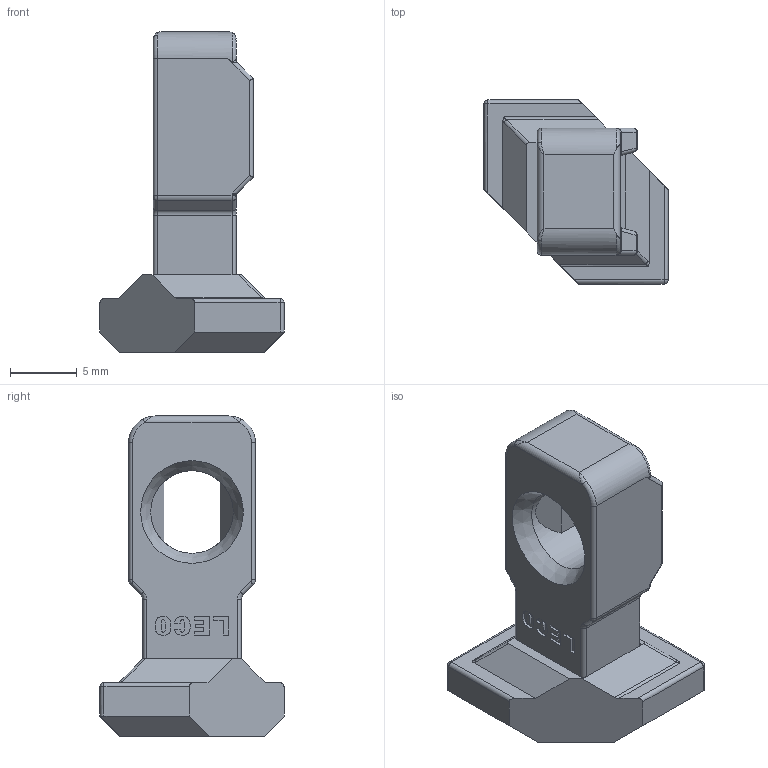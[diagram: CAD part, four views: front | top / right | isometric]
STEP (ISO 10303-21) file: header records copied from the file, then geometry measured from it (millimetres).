
FILE_DESCRIPTION(('STEP AP214'),'1');
FILE_NAME('TX25.stp','2016-11-17T10:22:35',(' '),(' '),'Spatial InterOp 3D',' ',' ');
FILE_SCHEMA(('automotive_design'));
Length unit declared in the file: millimetre
Products named in the file (1): TX25
Bounding box: 13.8 x 13.8 x 24 mm (x, y, z)
Volume: 1539.9 mm3; surface area: 1111 mm2
Topology: 1 solids, 1 shells, 314 faces, 858 edges, 539 vertices
Faces by surface type: plane 218, cylinder 55, bspline 24, torus 10, sphere 6, cone 1
Full cylindrical faces by diameter (mm): 6.2 x1
Entity records: 13455 total; most frequent: CARTESIAN_POINT 3136, ORIENTED_EDGE 1686, DIRECTION 1527, EDGE_CURVE 843, LINE 673, VECTOR 673, VERTEX_POINT 538, AXIS2_PLACEMENT_3D 427
